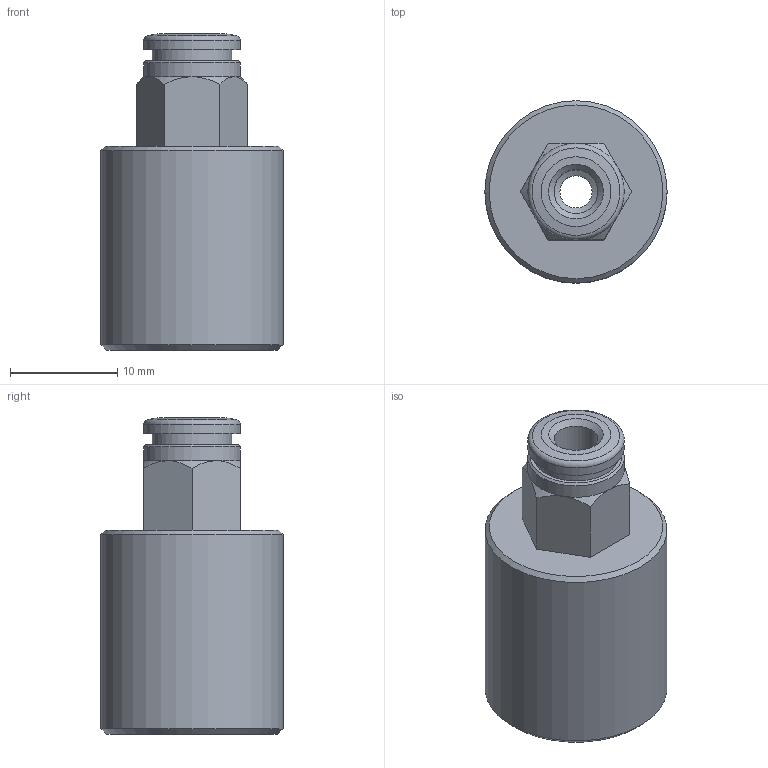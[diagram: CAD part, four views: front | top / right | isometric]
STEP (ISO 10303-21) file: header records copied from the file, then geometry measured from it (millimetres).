
FILE_DESCRIPTION(('Bauteilbeschreibung','HiCAD-Model','HiCAD-STEP-TRANSLATION','Bauteilbeschreibung'),'2;1');
FILE_NAME('B:/ABGLEICH/ZEICHNUNGEN/STEP FÜR INTERNET/STEP/200202_IPSO_02_4_1-4.STP','2011-07-14T14:24:11+00:00',('Konstrukteur'),('Konstrukteur Firma GmbH'),' HiCAD neXt 2008, Step 3.1.1401.2J ','HiCAD neXt 2008','confidential');
FILE_SCHEMA(('AUTOMOTIVE_DESIGN { 1 2 10303 214 0 1 1 1 }'));
Length unit declared in the file: millimetre
Products named in the file (5): A00202_IPSO_02_4_1_4; DR4_1_NEU; R200202_N; R2002020N; G 1_4
Assembly tree (4 placements, depth 3):
  A00202_IPSO_02_4_1_4
    DR4_1_NEU
    R200202_N
    R2002020N
      G 1_4
Bounding box: 17 x 17 x 29.5 mm (x, y, z)
Volume: 3268.9 mm3; surface area: 3614.6 mm2
Topology: 3 solids, 3 shells, 50 faces, 101 edges, 61 vertices
Faces by surface type: cone 19, plane 16, cylinder 14, torus 1
Full cylindrical faces by diameter (mm): 3 x1, 4.1 x2, 6.4 x1, 7.3 x1, 7.4 x1, 7.6 x1, 9 x2, 11.445 x2, 13.157 x2, 17 x1
Entity records: 1703 total; most frequent: DIRECTION 214, CARTESIAN_POINT 211, ORIENTED_EDGE 134, AXIS2_PLACEMENT_3D 101, EDGE_LOOP 88, COLOUR_RGB 70, PRESENTATION_STYLE_ASSIGNMENT 70, CURVE_STYLE 67
